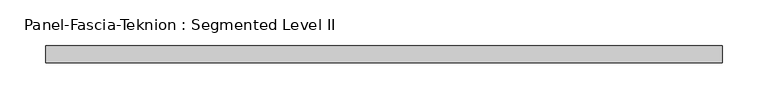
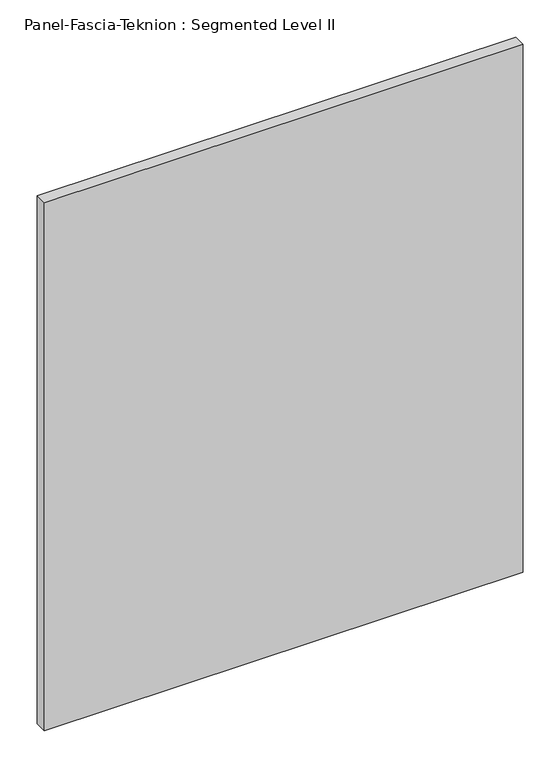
"""IFC4 building model written with IfcOpenShell, lengths in millimetres: proxy geometry, Panel-Fascia-Teknion : Segmented Level II."""

from ifc_helpers import new_model, si_unit, frame, origin, place, context, project, spatial, polyline, outline, extrude, source, transform, mapped, element, save


def panel_fascia_teknion_segmented_level_ii_8e019854(model_context):
    return source(origin(), model_context, "Body", "SweptSolid", [
        extrude(outline(polyline([(371.4253906, -9.525), (-371.4253906, -9.525), (-371.4253906, 9.525), (371.4253906, 9.525), (371.4253906, -9.525)])), frame((0.0, 0.0, 3.175), z_axis=(0.0, 0.0, 1.0), x_axis=(1.0, 0.0, 0.0)), (0.0, 0.0, 1.0), 865.632),
    ])


if __name__ == "__main__":
    model = new_model("IFC4")
    model_context = context("Model", 3, world=origin())
    ifc_project = project(units=[si_unit("LENGTHUNIT", "METRE", prefix="MILLI")], contexts=[model_context])
    site = spatial("IfcSite", under=ifc_project)
    building = spatial("IfcBuilding", under=site)
    placement = place(None, origin())
    panel_fascia_teknion_segmented_level_ii_shape = panel_fascia_teknion_segmented_level_ii_8e019854(model_context)
    element("IfcBuildingElementProxy", 1, Name="Panel-Fascia-Teknion : Segmented Level II", ObjectType="Panel-Fascia-Teknion : Segmented Level II", at=placement, inside=building, context=model_context, shape_type="MappedRepresentation", body=[
        mapped(panel_fascia_teknion_segmented_level_ii_shape, transform((0.0, 0.0, 0.0), x_axis=(1.0, 0.0, 0.0), y_axis=(0.0, 1.0, 0.0), z_axis=(0.0, 0.0, 1.0))),
    ])
    save(model, "model.ifc")
